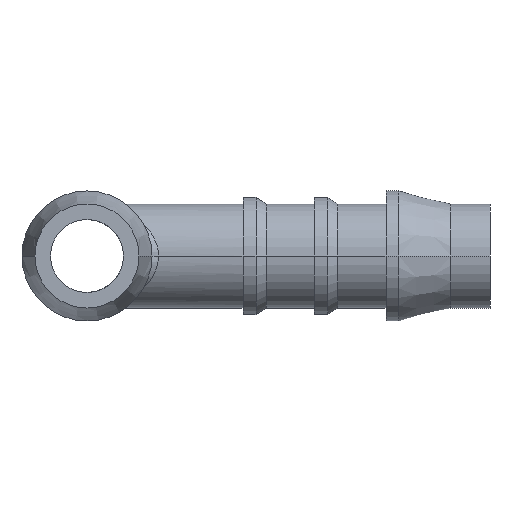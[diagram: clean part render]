
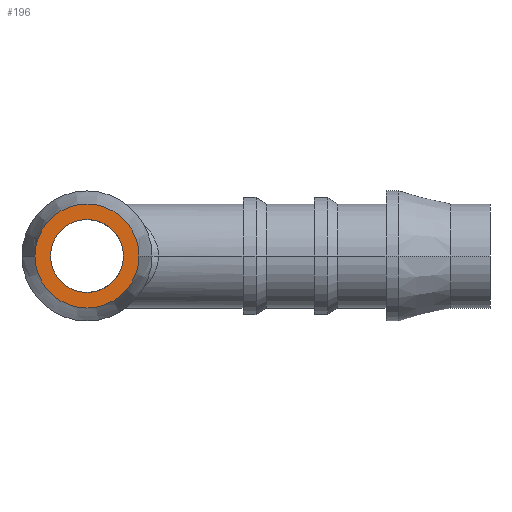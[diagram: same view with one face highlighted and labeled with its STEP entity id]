
A CAD part, left-side view. The second image highlights one B-rep face of the part: STEP entity #196.
In plain terms, the highlighted planar face has unit normal (-1, 0, 0).
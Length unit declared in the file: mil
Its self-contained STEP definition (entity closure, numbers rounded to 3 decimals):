
#196 = ADVANCED_FACE ( 'NONE', ( #2146, #3150 ), #1680, .T. ) ;
#199 = DIRECTION ( 'NONE',  ( 0., -1., 0. ) ) ;
#253 = EDGE_CURVE ( 'NONE', #892, #2013, #777, .T. ) ;
#483 = DIRECTION ( 'NONE',  ( -1., 0., 0. ) ) ;
#491 = ORIENTED_EDGE ( 'NONE', *, *, #2282, .T. ) ;
#495 = CARTESIAN_POINT ( 'NONE',  ( -1141.732, 0., 0. ) ) ;
#524 = ORIENTED_EDGE ( 'NONE', *, *, #2399, .T. ) ;
#559 = AXIS2_PLACEMENT_3D ( 'NONE', #495, #483, #199 ) ;
#573 = CARTESIAN_POINT ( 'NONE',  ( -1141.732, -110.236, 0. ) ) ;
#710 = CARTESIAN_POINT ( 'NONE',  ( -1141.732, 0., 0. ) ) ;
#777 = CIRCLE ( 'NONE', #1936, 157.48 ) ;
#892 = VERTEX_POINT ( 'NONE', #2356 ) ;
#937 = DIRECTION ( 'NONE',  ( 1., 0., 0. ) ) ;
#942 = CARTESIAN_POINT ( 'NONE',  ( -1141.732, 110.236, 0. ) ) ;
#955 = VERTEX_POINT ( 'NONE', #942 ) ;
#1024 = AXIS2_PLACEMENT_3D ( 'NONE', #710, #1991, #2208 ) ;
#1099 = ORIENTED_EDGE ( 'NONE', *, *, #253, .F. ) ;
#1208 = DIRECTION ( 'NONE',  ( 0., -1., 0. ) ) ;
#1313 = VERTEX_POINT ( 'NONE', #573 ) ;
#1524 = ORIENTED_EDGE ( 'NONE', *, *, #2403, .T. ) ;
#1635 = CARTESIAN_POINT ( 'NONE',  ( -1141.732, 157.48, 0. ) ) ;
#1680 = PLANE ( 'NONE',  #2606 ) ;
#1705 = DIRECTION ( 'NONE',  ( 1., 0., 0. ) ) ;
#1712 = CIRCLE ( 'NONE', #559, 157.48 ) ;
#1809 = CIRCLE ( 'NONE', #1024, 110.236 ) ;
#1927 = CARTESIAN_POINT ( 'NONE',  ( -1141.732, 0., 0. ) ) ;
#1936 = AXIS2_PLACEMENT_3D ( 'NONE', #2676, #937, #1208 ) ;
#1991 = DIRECTION ( 'NONE',  ( 1., 0., 0. ) ) ;
#2013 = VERTEX_POINT ( 'NONE', #1635 ) ;
#2146 = FACE_BOUND ( 'NONE', #2333, .T. ) ;
#2182 = DIRECTION ( 'NONE',  ( -1., 0., 0. ) ) ;
#2208 = DIRECTION ( 'NONE',  ( 0., 1., 0. ) ) ;
#2282 = EDGE_CURVE ( 'NONE', #892, #2013, #1712, .T. ) ;
#2286 = EDGE_LOOP ( 'NONE', ( #491, #1099 ) ) ;
#2333 = EDGE_LOOP ( 'NONE', ( #1524, #524 ) ) ;
#2356 = CARTESIAN_POINT ( 'NONE',  ( -1141.732, -157.48, 0. ) ) ;
#2399 = EDGE_CURVE ( 'NONE', #955, #1313, #1809, .T. ) ;
#2403 = EDGE_CURVE ( 'NONE', #1313, #955, #2647, .T. ) ;
#2606 = AXIS2_PLACEMENT_3D ( 'NONE', #1927, #2182, #3189 ) ;
#2647 = CIRCLE ( 'NONE', #3168, 110.236 ) ;
#2676 = CARTESIAN_POINT ( 'NONE',  ( -1141.732, 0., 0. ) ) ;
#2943 = CARTESIAN_POINT ( 'NONE',  ( -1141.732, 0., 0. ) ) ;
#3150 = FACE_OUTER_BOUND ( 'NONE', #2286, .T. ) ;
#3168 = AXIS2_PLACEMENT_3D ( 'NONE', #2943, #1705, #3213 ) ;
#3189 = DIRECTION ( 'NONE',  ( 0., 0., 1. ) ) ;
#3213 = DIRECTION ( 'NONE',  ( 0., -1., 0. ) ) ;
